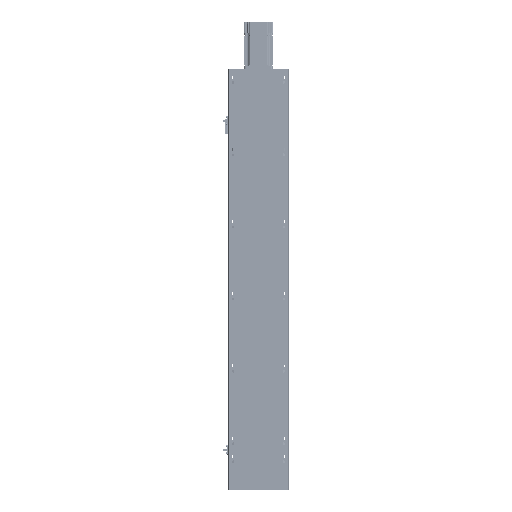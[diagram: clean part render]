
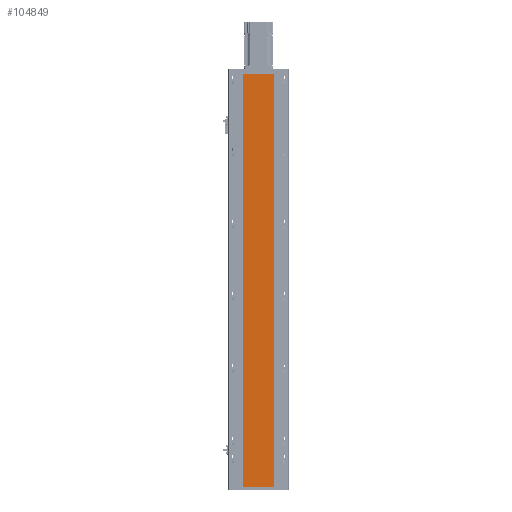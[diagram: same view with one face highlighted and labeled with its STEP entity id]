
A CAD part, front view. The second image highlights one B-rep face of the part: STEP entity #104849.
In plain terms, the highlighted planar face has unit normal (0, -1, 0).
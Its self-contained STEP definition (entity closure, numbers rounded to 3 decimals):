
#14 = CARTESIAN_POINT ( 'NONE',  ( 42., 0., -1145. ) ) ;
#674 = LINE ( 'NONE', #48712, #86948 ) ;
#904 = ORIENTED_EDGE ( 'NONE', *, *, #27825, .F. ) ;
#4115 = ORIENTED_EDGE ( 'NONE', *, *, #48494, .F. ) ;
#4370 = CARTESIAN_POINT ( 'NONE',  ( -42., 0., 0. ) ) ;
#6696 = VERTEX_POINT ( 'NONE', #71086 ) ;
#12824 = CARTESIAN_POINT ( 'NONE',  ( -42., 0., -1145. ) ) ;
#19952 = VERTEX_POINT ( 'NONE', #4370 ) ;
#22381 = AXIS2_PLACEMENT_3D ( 'NONE', #48984, #49341, #107705 ) ;
#23461 = VECTOR ( 'NONE', #98081, 1000. ) ;
#27825 = EDGE_CURVE ( 'NONE', #19952, #6696, #56756, .T. ) ;
#28070 = DIRECTION ( 'NONE',  ( 1., 0., 0. ) ) ;
#32251 = DIRECTION ( 'NONE',  ( 0., 0., 1. ) ) ;
#34897 = EDGE_CURVE ( 'NONE', #58473, #37096, #49725, .T. ) ;
#37096 = VERTEX_POINT ( 'NONE', #14 ) ;
#37225 = VECTOR ( 'NONE', #100007, 1000. ) ;
#39720 = CARTESIAN_POINT ( 'NONE',  ( 42., 0., -1145. ) ) ;
#48494 = EDGE_CURVE ( 'NONE', #58473, #19952, #674, .T. ) ;
#48712 = CARTESIAN_POINT ( 'NONE',  ( -42., 0., -1145. ) ) ;
#48984 = CARTESIAN_POINT ( 'NONE',  ( -42., 0., -1145. ) ) ;
#49341 = DIRECTION ( 'NONE',  ( 0., -1., 0. ) ) ;
#49725 = LINE ( 'NONE', #61314, #69351 ) ;
#50057 = CARTESIAN_POINT ( 'NONE',  ( -42., 0., 0. ) ) ;
#51752 = EDGE_CURVE ( 'NONE', #37096, #6696, #67877, .T. ) ;
#56756 = LINE ( 'NONE', #50057, #37225 ) ;
#57383 = PLANE ( 'NONE',  #22381 ) ;
#58473 = VERTEX_POINT ( 'NONE', #12824 ) ;
#61314 = CARTESIAN_POINT ( 'NONE',  ( -42., 0., -1145. ) ) ;
#64417 = EDGE_LOOP ( 'NONE', ( #904, #4115, #81288, #95949 ) ) ;
#67877 = LINE ( 'NONE', #39720, #23461 ) ;
#69351 = VECTOR ( 'NONE', #28070, 1000. ) ;
#71086 = CARTESIAN_POINT ( 'NONE',  ( 42., 0., 0. ) ) ;
#81288 = ORIENTED_EDGE ( 'NONE', *, *, #34897, .T. ) ;
#86948 = VECTOR ( 'NONE', #32251, 1000. ) ;
#90642 = FACE_OUTER_BOUND ( 'NONE', #64417, .T. ) ;
#95949 = ORIENTED_EDGE ( 'NONE', *, *, #51752, .T. ) ;
#98081 = DIRECTION ( 'NONE',  ( 0., 0., 1. ) ) ;
#100007 = DIRECTION ( 'NONE',  ( 1., 0., 0. ) ) ;
#104849 = ADVANCED_FACE ( 'NONE', ( #90642 ), #57383, .T. ) ;
#107705 = DIRECTION ( 'NONE',  ( 0., 0., -1. ) ) ;
